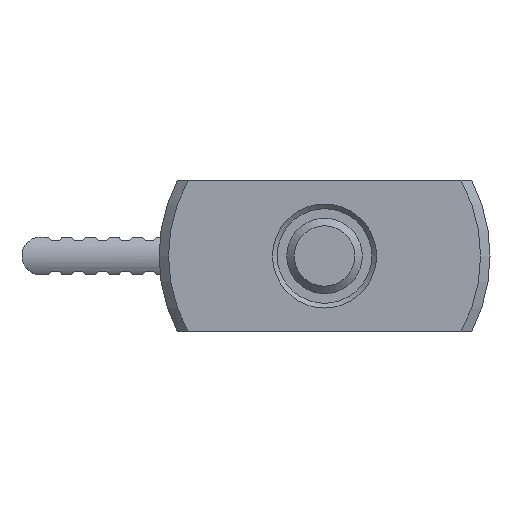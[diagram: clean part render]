
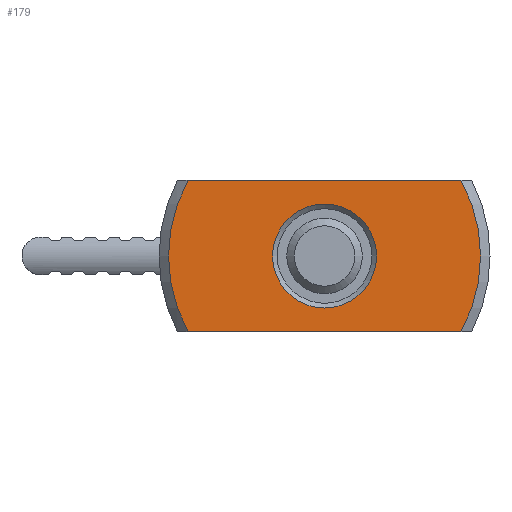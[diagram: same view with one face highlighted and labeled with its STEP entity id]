
A CAD part, front view. The second image highlights one B-rep face of the part: STEP entity #179.
In plain terms, the highlighted planar face has unit normal (0, -1, 0).
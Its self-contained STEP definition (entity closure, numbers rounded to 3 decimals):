
#179 = ADVANCED_FACE( '', ( #303, #304 ), #305, .F. );
#303 = FACE_BOUND( '', #550, .T. );
#304 = FACE_OUTER_BOUND( '', #551, .T. );
#305 = PLANE( '', #552 );
#550 = EDGE_LOOP( '', ( #840 ) );
#551 = EDGE_LOOP( '', ( #841, #842, #843, #844 ) );
#552 = AXIS2_PLACEMENT_3D( '', #845, #846, #847 );
#840 = ORIENTED_EDGE( '', *, *, #1585, .F. );
#841 = ORIENTED_EDGE( '', *, *, #1592, .T. );
#842 = ORIENTED_EDGE( '', *, *, #1593, .T. );
#843 = ORIENTED_EDGE( '', *, *, #1594, .T. );
#844 = ORIENTED_EDGE( '', *, *, #1595, .T. );
#845 = CARTESIAN_POINT( '', ( 16.5, 0., 0. ) );
#846 = DIRECTION( '', ( 0., 1., 0. ) );
#847 = DIRECTION( '', ( 0., 0., 1. ) );
#1585 = EDGE_CURVE( '', #1844, #1844, #1845, .T. );
#1592 = EDGE_CURVE( '', #1858, #1859, #1860, .T. );
#1593 = EDGE_CURVE( '', #1859, #1861, #1862, .T. );
#1594 = EDGE_CURVE( '', #1861, #1863, #1864, .T. );
#1595 = EDGE_CURVE( '', #1863, #1858, #1865, .T. );
#1844 = VERTEX_POINT( '', #2416 );
#1845 = CIRCLE( '', #2417, 5.5 );
#1858 = VERTEX_POINT( '', #2430 );
#1859 = VERTEX_POINT( '', #2431 );
#1860 = CIRCLE( '', #2432, 16.5 );
#1861 = VERTEX_POINT( '', #2433 );
#1862 = LINE( '', #2434, #2435 );
#1863 = VERTEX_POINT( '', #2436 );
#1864 = CIRCLE( '', #2437, 16.5 );
#1865 = LINE( '', #2438, #2439 );
#2416 = CARTESIAN_POINT( '', ( 0., 0., -5.5 ) );
#2417 = AXIS2_PLACEMENT_3D( '', #3041, #3042, #3043 );
#2430 = CARTESIAN_POINT( '', ( -14.431, 0., 8. ) );
#2431 = CARTESIAN_POINT( '', ( -14.431, 0., -8. ) );
#2432 = AXIS2_PLACEMENT_3D( '', #3062, #3063, #3064 );
#2433 = CARTESIAN_POINT( '', ( 14.431, 0., -8. ) );
#2434 = CARTESIAN_POINT( '', ( 16.5, 0., -8. ) );
#2435 = VECTOR( '', #3065, 1000. );
#2436 = CARTESIAN_POINT( '', ( 14.431, 0., 8. ) );
#2437 = AXIS2_PLACEMENT_3D( '', #3066, #3067, #3068 );
#2438 = CARTESIAN_POINT( '', ( 16.5, 0., 8. ) );
#2439 = VECTOR( '', #3069, 1000. );
#3041 = CARTESIAN_POINT( '', ( 0., 0., 0. ) );
#3042 = DIRECTION( '', ( 0., -1., 0. ) );
#3043 = DIRECTION( '', ( 0., 0., -1. ) );
#3062 = CARTESIAN_POINT( '', ( 0., 0., 0. ) );
#3063 = DIRECTION( '', ( 0., -1., 0. ) );
#3064 = DIRECTION( '', ( 0., 0., -1. ) );
#3065 = DIRECTION( '', ( 1., 0., 0. ) );
#3066 = CARTESIAN_POINT( '', ( 0., 0., 0. ) );
#3067 = DIRECTION( '', ( 0., -1., 0. ) );
#3068 = DIRECTION( '', ( 0., 0., -1. ) );
#3069 = DIRECTION( '', ( -1., 0., 0. ) );
